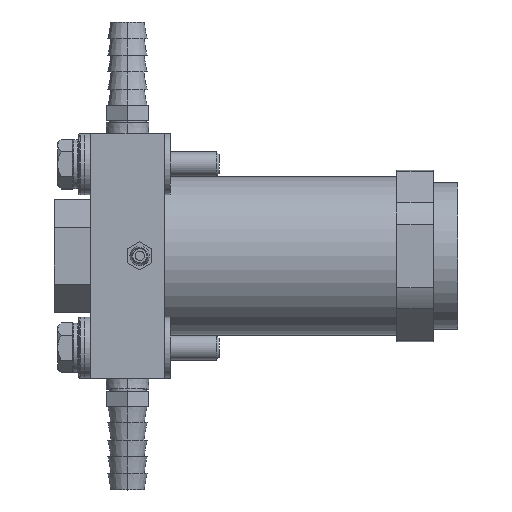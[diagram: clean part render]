
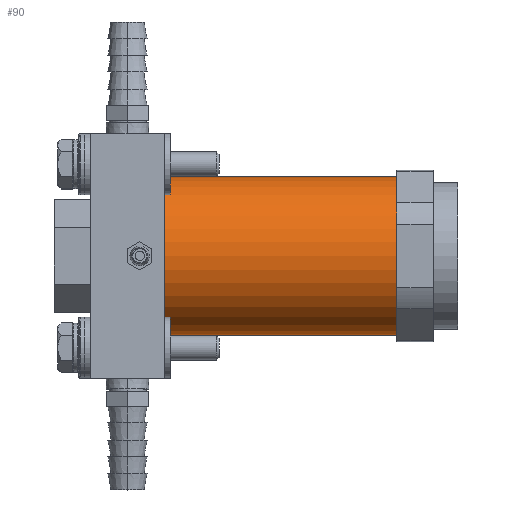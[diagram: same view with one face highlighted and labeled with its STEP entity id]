
A CAD part, top view. The second image highlights one B-rep face of the part: STEP entity #90.
In plain terms, the highlighted cylindrical face has radius 20.637 mm (diameter 41.275 mm), a partial arc.
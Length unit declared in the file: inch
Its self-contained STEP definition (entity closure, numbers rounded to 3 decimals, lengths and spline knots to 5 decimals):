
#28=CARTESIAN_POINT('',(-3.,0.,0.));
#29=DIRECTION('',(-1.,0.,0.));
#30=DIRECTION('',(0.,-1.,0.));
#31=AXIS2_PLACEMENT_3D('',#28,#29,#30);
#38=DIRECTION('',(1.,0.,0.));
#39=VECTOR('',#38,2.375);
#40=CARTESIAN_POINT('',(-3.,0.8125,0.));
#41=LINE('',#40,#39);
#42=DIRECTION('',(1.,0.,0.));
#43=VECTOR('',#42,2.375);
#44=CARTESIAN_POINT('',(-3.,-0.8125,0.));
#45=LINE('',#44,#43);
#51=CARTESIAN_POINT('',(-0.625,0.,0.));
#52=DIRECTION('',(1.,0.,0.));
#53=DIRECTION('',(0.,1.,0.));
#54=AXIS2_PLACEMENT_3D('',#51,#52,#53);
#56=CARTESIAN_POINT('',(-3.,-0.8125,0.));
#57=CARTESIAN_POINT('',(-0.625,-0.8125,0.));
#58=VERTEX_POINT('',#56);
#59=VERTEX_POINT('',#57);
#60=CARTESIAN_POINT('',(-3.,0.8125,0.));
#61=CARTESIAN_POINT('',(-0.625,0.8125,0.));
#62=VERTEX_POINT('',#60);
#63=VERTEX_POINT('',#61);
#76=CARTESIAN_POINT('',(-2.5,0.,0.));
#77=DIRECTION('',(1.,0.,0.));
#78=DIRECTION('',(0.,-1.,0.));
#79=AXIS2_PLACEMENT_3D('',#76,#77,#78);
#80=CYLINDRICAL_SURFACE('',#79,0.8125);
#81=ORIENTED_EDGE('',*,*,#69,.T.);
#83=ORIENTED_EDGE('',*,*,#82,.T.);
#85=ORIENTED_EDGE('',*,*,#84,.T.);
#87=ORIENTED_EDGE('',*,*,#86,.F.);
#88=EDGE_LOOP('',(#81,#83,#85,#87));
#89=FACE_OUTER_BOUND('',#88,.F.);
#32=CIRCLE('',#31,0.8125);
#55=CIRCLE('',#54,0.8125);
#69=EDGE_CURVE('',#58,#62,#32,.T.);
#82=EDGE_CURVE('',#62,#63,#41,.T.);
#84=EDGE_CURVE('',#63,#59,#55,.T.);
#86=EDGE_CURVE('',#58,#59,#45,.T.);
#90=ADVANCED_FACE('',(#89),#80,.T.);
